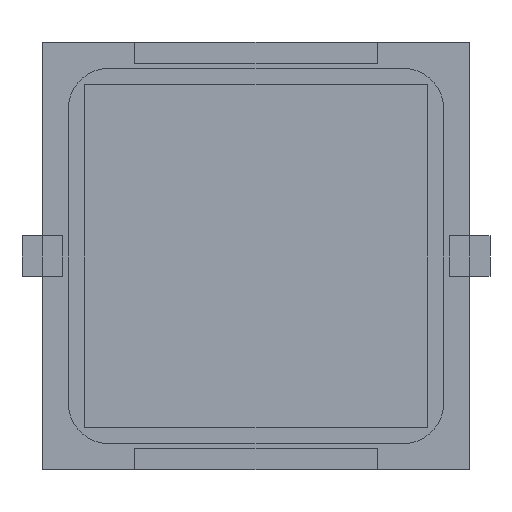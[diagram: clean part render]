
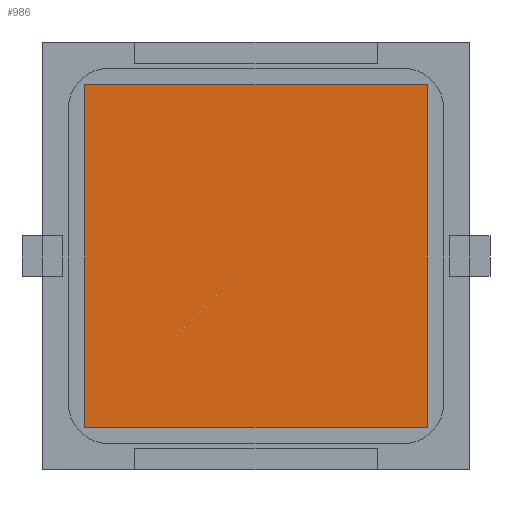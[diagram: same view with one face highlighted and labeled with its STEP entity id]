
A CAD part, front view. The second image highlights one B-rep face of the part: STEP entity #986.
In plain terms, the highlighted planar face has unit normal (0, -1, 0).
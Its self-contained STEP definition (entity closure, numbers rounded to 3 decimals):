
#6 = ORIENTED_EDGE ( 'NONE', *, *, #4646, .F. ) ;
#392 = CARTESIAN_POINT ( 'NONE',  ( 8.5, -0.127, 8.5 ) ) ;
#513 = CARTESIAN_POINT ( 'NONE',  ( -8.5, -0.127, -8.5 ) ) ;
#519 = CARTESIAN_POINT ( 'NONE',  ( -8.5, -0.127, 8.5 ) ) ;
#534 = VERTEX_POINT ( 'NONE', #519 ) ;
#876 = LINE ( 'NONE', #2677, #3121 ) ;
#938 = FACE_OUTER_BOUND ( 'NONE', #5180, .T. ) ;
#986 = ADVANCED_FACE ( 'NONE', ( #938 ), #1365, .F. ) ;
#1083 = DIRECTION ( 'NONE',  ( 0., 0., -1. ) ) ;
#1116 = EDGE_CURVE ( 'NONE', #534, #2417, #4663, .T. ) ;
#1316 = CARTESIAN_POINT ( 'NONE',  ( -8.5, -0.127, -8.5 ) ) ;
#1365 = PLANE ( 'NONE',  #2792 ) ;
#1598 = VECTOR ( 'NONE', #2312, 1000. ) ;
#1918 = CARTESIAN_POINT ( 'NONE',  ( -8.5, -0.127, 8.5 ) ) ;
#2277 = VERTEX_POINT ( 'NONE', #1316 ) ;
#2312 = DIRECTION ( 'NONE',  ( 0., 0., 1. ) ) ;
#2417 = VERTEX_POINT ( 'NONE', #392 ) ;
#2677 = CARTESIAN_POINT ( 'NONE',  ( -8.5, -0.127, -8.5 ) ) ;
#2792 = AXIS2_PLACEMENT_3D ( 'NONE', #3148, #4918, #5429 ) ;
#2819 = DIRECTION ( 'NONE',  ( 1., 0., 0. ) ) ;
#2926 = CARTESIAN_POINT ( 'NONE',  ( 8.5, -0.127, -8.5 ) ) ;
#3121 = VECTOR ( 'NONE', #3348, 1000. ) ;
#3148 = CARTESIAN_POINT ( 'NONE',  ( -8.5, -0.127, 8.5 ) ) ;
#3161 = EDGE_CURVE ( 'NONE', #2277, #534, #4544, .T. ) ;
#3261 = CARTESIAN_POINT ( 'NONE',  ( 8.5, -0.127, -8.5 ) ) ;
#3348 = DIRECTION ( 'NONE',  ( -1., 0., 0. ) ) ;
#3638 = VECTOR ( 'NONE', #1083, 1000. ) ;
#3842 = EDGE_CURVE ( 'NONE', #2417, #5681, #5552, .T. ) ;
#3884 = ORIENTED_EDGE ( 'NONE', *, *, #1116, .F. ) ;
#4133 = ORIENTED_EDGE ( 'NONE', *, *, #3842, .F. ) ;
#4544 = LINE ( 'NONE', #513, #1598 ) ;
#4646 = EDGE_CURVE ( 'NONE', #5681, #2277, #876, .T. ) ;
#4663 = LINE ( 'NONE', #1918, #5085 ) ;
#4918 = DIRECTION ( 'NONE',  ( 0., 1., 0. ) ) ;
#5085 = VECTOR ( 'NONE', #2819, 1000. ) ;
#5180 = EDGE_LOOP ( 'NONE', ( #5608, #6, #4133, #3884 ) ) ;
#5429 = DIRECTION ( 'NONE',  ( 0., 0., 1. ) ) ;
#5552 = LINE ( 'NONE', #3261, #3638 ) ;
#5608 = ORIENTED_EDGE ( 'NONE', *, *, #3161, .F. ) ;
#5681 = VERTEX_POINT ( 'NONE', #2926 ) ;
